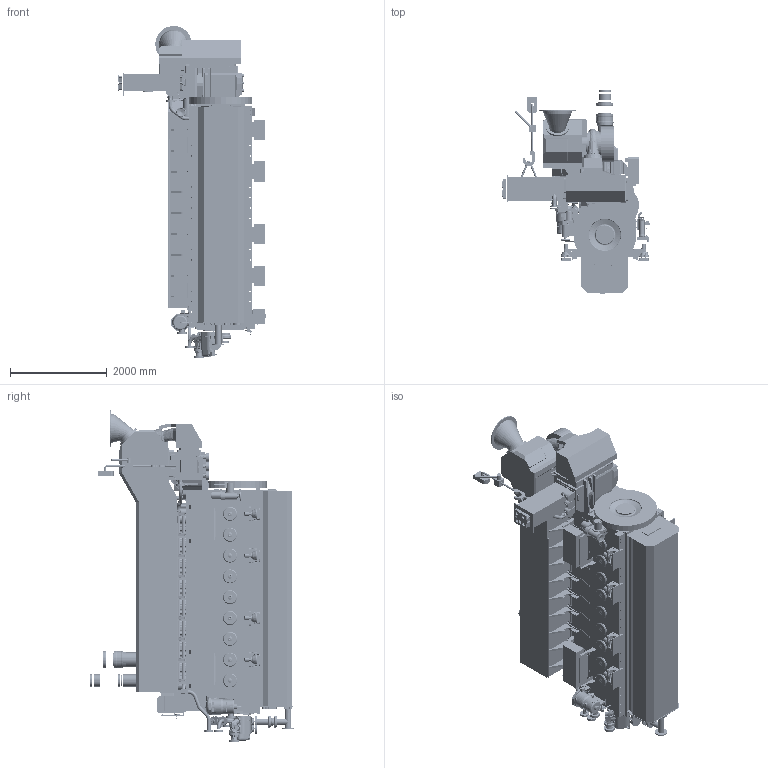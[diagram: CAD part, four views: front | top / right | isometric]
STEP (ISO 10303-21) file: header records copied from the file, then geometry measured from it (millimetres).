
FILE_DESCRIPTION((''),'2;1');
FILE_NAME('9M25E_FWS_STP_ASM','2015-11-17T',('frickbd'),('Caterpillar Motoren GmbH & Co.KG'),'PRO/ENGINEER BY PARAMETRIC TECHNOLOGY CORPORATION, 2014200','PRO/ENGINEER BY PARAMETRIC TECHNOLOGY CORPORATION, 2014200','');
FILE_SCHEMA(('CONFIG_CONTROL_DESIGN'));
Products named in the file (6): 9M25E_FWS_STP_REMOV_SPACE_P01; 9M25E_FWS_STP_RESIL_MOUNT_P01; 9M25E_FWS_STP_DRY_SUMP_P01; 9M25E_FWS_STP_ENGINE_P01; 9M25E_FWS_STP_WET_SUMP_P01; 9M25E_FWS_STP_ASM
Assembly tree (5 placements, depth 2):
  9M25E_FWS_STP_ASM
    9M25E_FWS_STP_REMOV_SPACE_P01
    9M25E_FWS_STP_RESIL_MOUNT_P01
    9M25E_FWS_STP_DRY_SUMP_P01
    9M25E_FWS_STP_ENGINE_P01
    9M25E_FWS_STP_WET_SUMP_P01
Bounding box: 3067.97 x 4216 x 6855.69 mm (x, y, z)
Surface area: 149371566.6 mm2 (no closed solid volume)
Topology: 0 solids, 531 shells, 4846 faces, 19408 edges, 14720 vertices
Faces by surface type: plane 2561, cylinder 1646, bspline 231, cone 205, torus 172, sphere 30, extrusion 1
Entity records: 256402 total; most frequent: CARTESIAN_POINT 78784, DIRECTION 33429, ORIENTED_EDGE 28720, EDGE_CURVE 19384, VERTEX_POINT 14723, VECTOR 11687, LINE 11686, AXIS2_PLACEMENT_3D 10871
